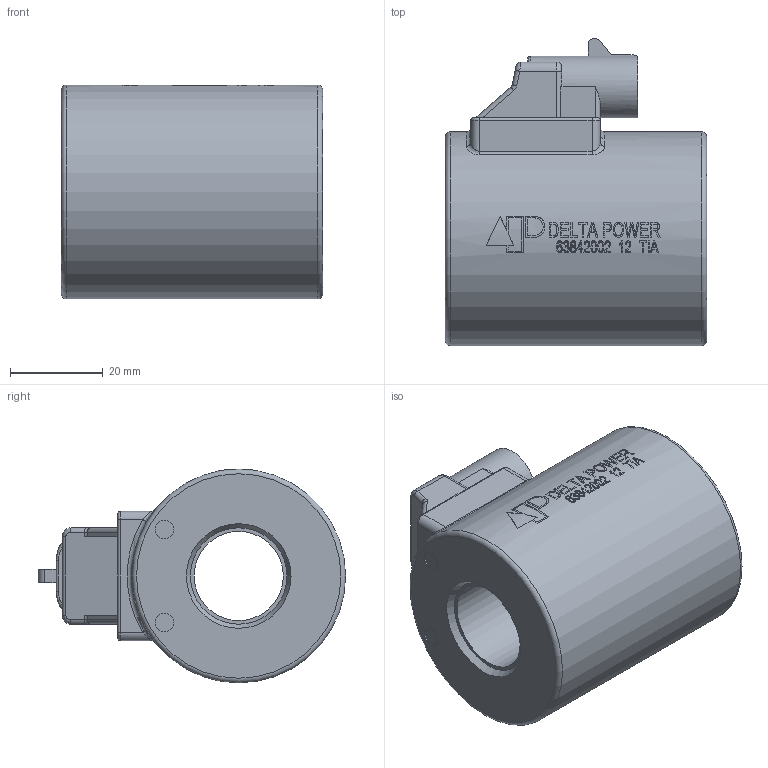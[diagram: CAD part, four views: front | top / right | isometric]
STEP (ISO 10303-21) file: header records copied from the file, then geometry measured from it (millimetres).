
FILE_DESCRIPTION(/* description */ ('"TIA" 12VDC W/AMP SUPERSEAL CONNECTOR'),/* implementation_level */ '2;1');
FILE_NAME(/* name */ 'R:\Solids\Coils (.STEP)\TIA12.stp',/* time_stamp */ '2023-01-06T08:56:32-06:00',/* author */ ('Michael'),/* organization */ (''),/* preprocessor_version */ 'ST-DEVELOPER v17.2',/* originating_system */ 'Autodesk Inventor 2019',/* authorisation */ '');
FILE_SCHEMA (('AUTOMOTIVE_DESIGN { 1 0 10303 214 3 1 1 }'));
Length unit declared in the file: inch
Products named in the file (1): 63842002
Bounding box: 56.2 x 66.1 x 46 mm (x, y, z)
Volume: 85168.2 mm3; surface area: 16885.2 mm2
Topology: 1 solids, 1 shells, 458 faces, 1203 edges, 794 vertices
Faces by surface type: plane 194, bspline 173, cylinder 77, torus 12, cone 2
Full cylindrical faces by diameter (mm): 4 x2, 19.2 x1, 46 x1
Entity records: 18196 total; most frequent: CARTESIAN_POINT 7758, ORIENTED_EDGE 2406, DIRECTION 1643, EDGE_CURVE 1203, VERTEX_POINT 794, LINE 629, VECTOR 629, EDGE_LOOP 507
